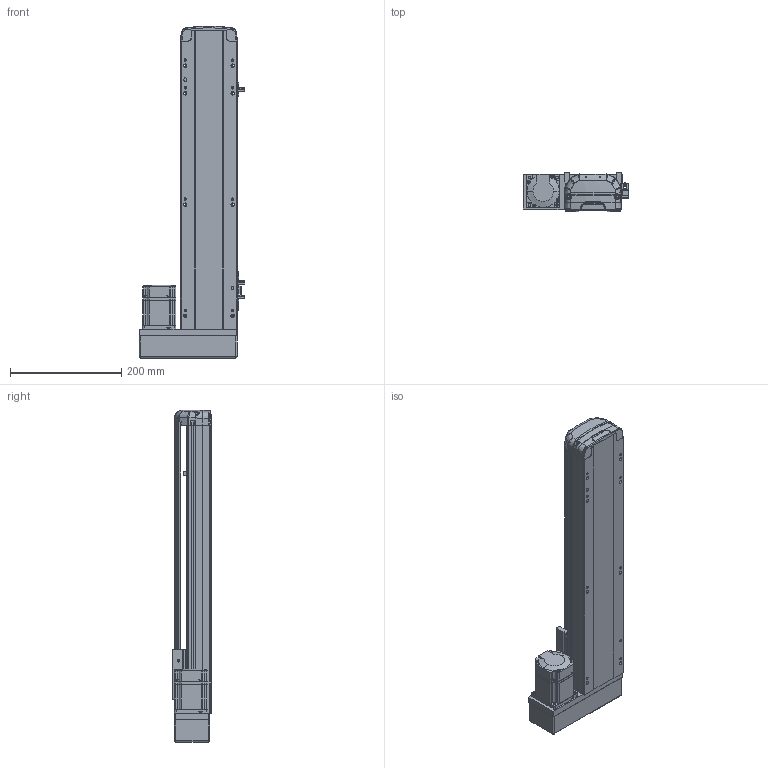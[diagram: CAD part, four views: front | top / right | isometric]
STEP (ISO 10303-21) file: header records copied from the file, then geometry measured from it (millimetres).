
FILE_DESCRIPTION (( 'STEP AP214' ), '1' );
FILE_NAME ('RTH10-XX-350-L-M20-C4.STEP', '2025-10-25T03:45:11', ( 'Microsoft' ), ( 'Microsoft' ), 'SwSTEP 2.0', 'SolidWorks 2018', '' );
FILE_SCHEMA (( 'AUTOMOTIVE_DESIGN' ));
Length unit declared in the file: millimetre
Products named in the file (10): N_RTH12-M-011P-臏倰第菁釱^RTH10-XX-XX-L-M20-C4; N_200W-1^RTH10-XX-XX-L-M20-C4; N_RTH12-L-008萇儂啣^RTH10-XX-XX-L-M20-C4; RTH10-XX-350-L-M20-C4; N_OMRON EE-SX672 传感器^RTH10-XX-XX-L-M20-C4; N_RTH13-L-012覜茼え俋离^RTH10-XX-XX-L-M20-C4; N_RTH12-M-007P-奻裔^RTH10-XX-XX-L-M20-C4; N_RTH12-GY-004-賑釱^RTH10-XX-XX-L-M20-C4; N_RTH12-L-018-裔赽^RTH10-XX-XX-L-M20-C4; N_RTH12-GY-001P^RTH10-XX-XX-L-M20-C4
Assembly tree (11 placements, depth 2):
  RTH10-XX-350-L-M20-C4
    N_RTH12-M-011P-臏倰第菁釱^RTH10-XX-XX-L-M20-C4
    N_RTH13-L-012覜茼え俋离^RTH10-XX-XX-L-M20-C4
    N_OMRON EE-SX672 传感器^RTH10-XX-XX-L-M20-C4  x3
    N_200W-1^RTH10-XX-XX-L-M20-C4
    N_RTH12-M-007P-奻裔^RTH10-XX-XX-L-M20-C4
    N_RTH12-L-008萇儂啣^RTH10-XX-XX-L-M20-C4
    N_RTH12-L-018-裔赽^RTH10-XX-XX-L-M20-C4
    N_RTH12-GY-004-賑釱^RTH10-XX-XX-L-M20-C4
    N_RTH12-GY-001P^RTH10-XX-XX-L-M20-C4
Bounding box: 190 x 70 x 597.31 mm (x, y, z)
Volume: 2961637.7 mm3; surface area: 459405.6 mm2
Topology: 10 solids, 12 shells, 1956 faces, 5443 edges, 3573 vertices
Faces by surface type: plane 979, bspline 472, cylinder 470, cone 29, sphere 4, torus 2
Entity records: 58681 total; most frequent: CARTESIAN_POINT 23149, ORIENTED_EDGE 7958, DIRECTION 6137, EDGE_CURVE 3985, VERTEX_POINT 2617, VECTOR 2143, LINE 2143, AXIS2_PLACEMENT_3D 1997
